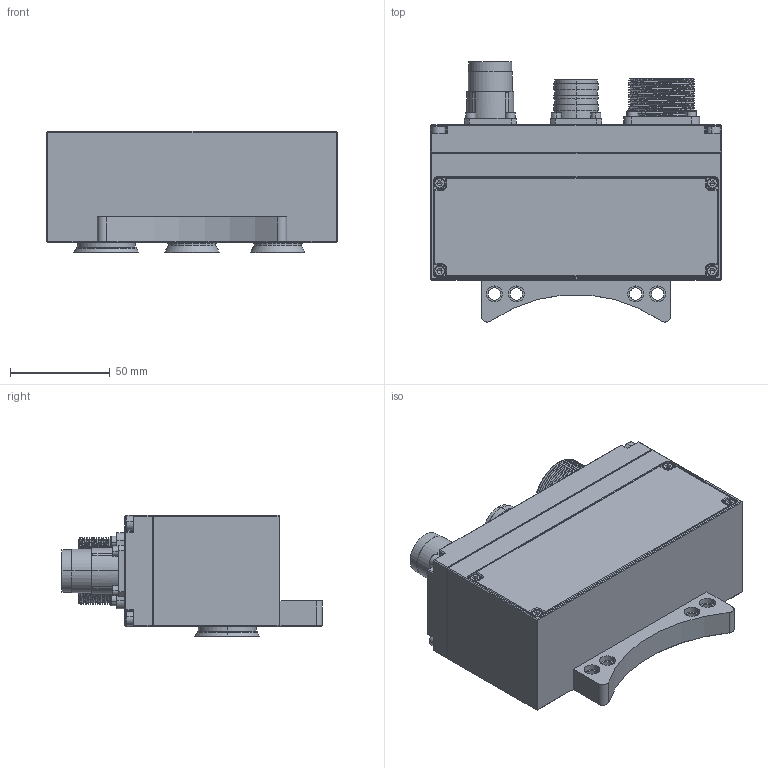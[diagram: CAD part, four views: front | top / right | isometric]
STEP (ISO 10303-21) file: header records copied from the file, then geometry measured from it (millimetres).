
FILE_DESCRIPTION (( 'STEP AP203' ), '1' );
FILE_NAME ('踱縐.STEP', '2024-08-28T09:19:24', ( 'Windows 蚚誧' ), ( 'Organization' ), 'SwSTEP 2.0', 'SolidWorks 2018', '' );
FILE_SCHEMA (( 'CONFIG_CONTROL_DESIGN' ));
Products named in the file (1): 踱縐
Bounding box: 146 x 130.63 x 61.1 mm (x, y, z)
Volume: 678317.4 mm3; surface area: 83610.7 mm2
Topology: 1 solids, 1 shells, 3087 faces, 6963 edges, 4097 vertices
Faces by surface type: plane 2071, cylinder 656, cone 276, torus 58, sphere 16, bspline 10
Entity records: 91753 total; most frequent: CARTESIAN_POINT 25481, ORIENTED_EDGE 13878, DIRECTION 13486, EDGE_CURVE 6939, AXIS2_PLACEMENT_3D 4802, VERTEX_POINT 4097, VECTOR 3882, LINE 3882
